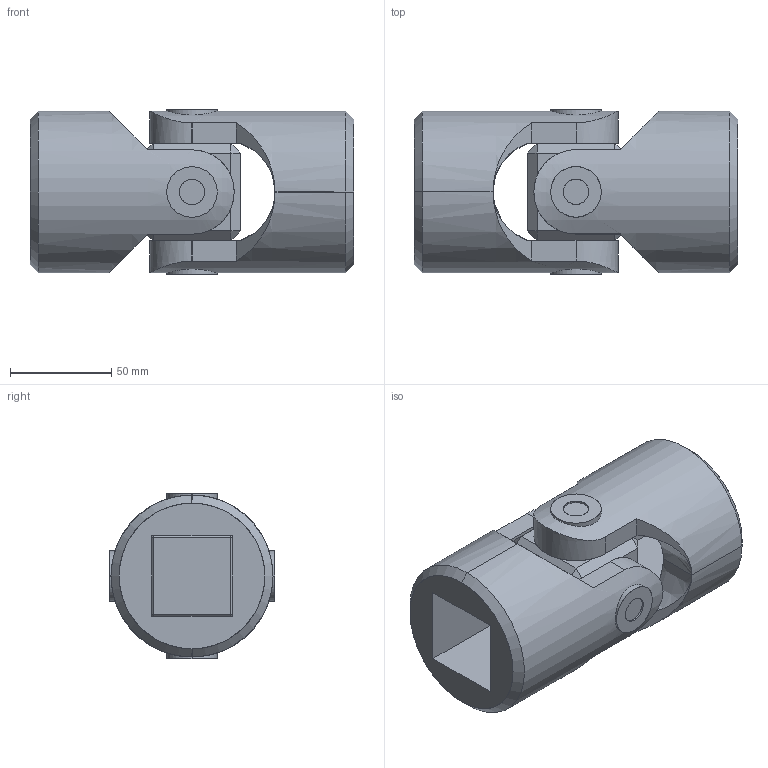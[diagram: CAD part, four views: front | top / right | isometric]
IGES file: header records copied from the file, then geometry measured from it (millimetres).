
Start section: SolidWorks IGES file using analytic representation for surfaces
Global section: file name: C:\Users\IanO\Desktop\R3690_v2\R3690_v2_20231020_IGES\R3690.040-SB.igs; native system: SolidWorks 2019; preprocessor: SolidWorks 2019; author: IanO; date: 231020.153125; units: millimetre
Bounding box: 160 x 81.6 x 81.6 mm (x, y, z)
Surface area: 100947.4 mm2 (no closed solid volume)
Topology: 0 solids, 0 shells, 108 faces, 2288 edges, 2288 vertices
Faces by surface type: bspline 64, revolution 44
